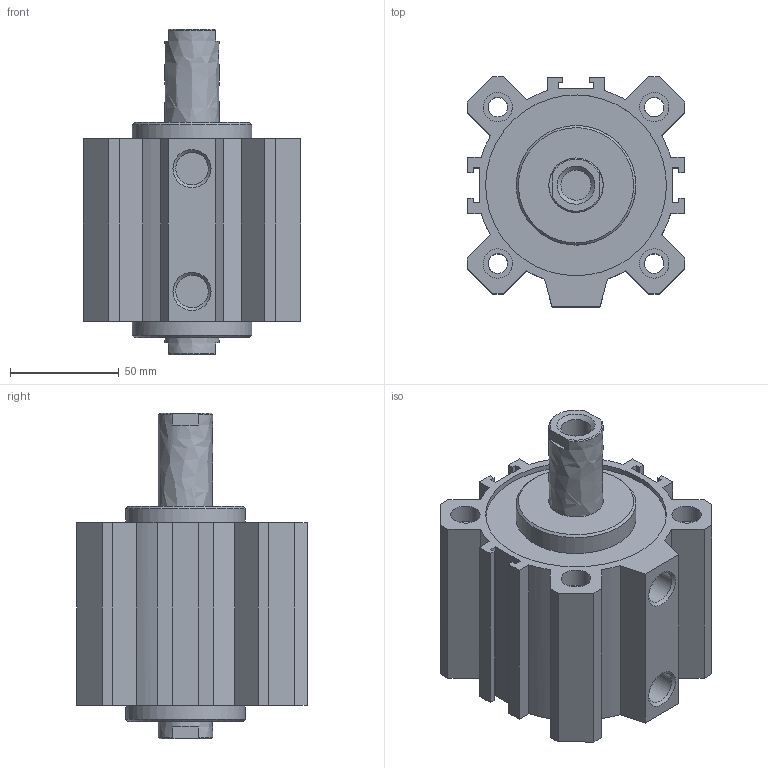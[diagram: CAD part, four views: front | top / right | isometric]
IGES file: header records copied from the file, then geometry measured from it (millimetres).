
Global section: file name: 1514_80_0035; native system: Autodesk Inventor 2014; preprocessor: unknown; author: A. Manieri; date: 20160824.142343; units: millimetre
Bounding box: 100 x 106 x 150 mm (x, y, z)
Volume: 565536.3 mm3; surface area: 128377.6 mm2
Topology: 2 solids, 2 shells, 132 faces, 346 edges, 238 vertices
Faces by surface type: bspline 132
